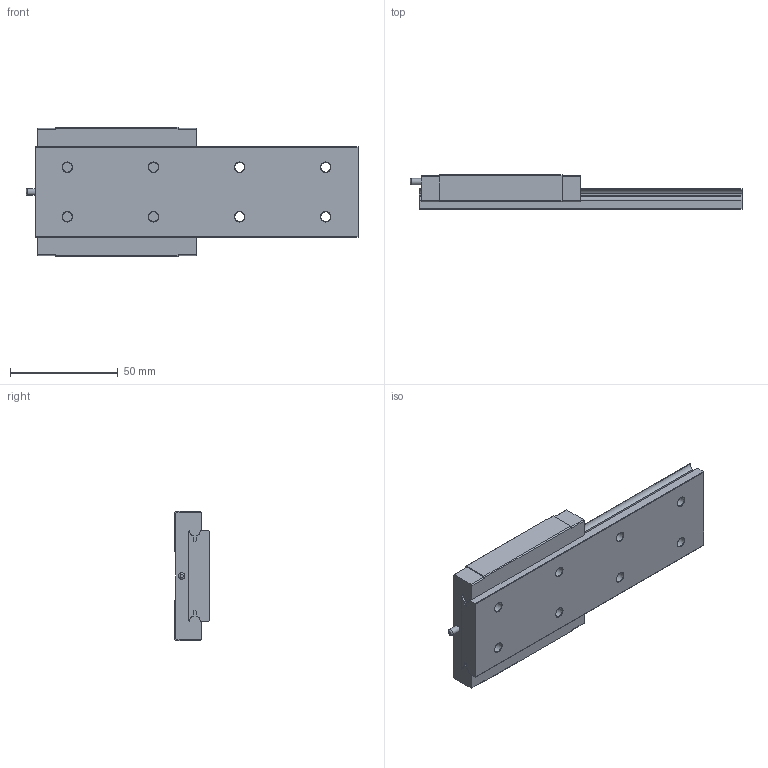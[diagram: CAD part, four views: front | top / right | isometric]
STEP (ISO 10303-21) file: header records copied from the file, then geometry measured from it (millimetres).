
FILE_DESCRIPTION( ( 'STEP AP214' ), '1' );
FILE_NAME( 'C:/Users/Futia/Documents/MLW15H.stp', '2021-11-04T07:06:42', ( 'License CC BY-ND 4.0' ), ( 'CADENAS' ), ' ', 'PARTsolutions', ' ' );
FILE_SCHEMA( ( 'AUTOMOTIVE_DESIGN { 1 0 10303 214 1 1 1 1 }' ) );
Length unit declared in the file: millimetre
Products named in the file (3): SWHC-H16-1-L150-E15; _SWHC-H16-1-L150-E15_SWHC_GUIDERAIL; _SWHC-H16-1-L150-E15_SWHC_BLOCK
Assembly tree (2 placements, depth 2):
  SWHC-H16-1-L150-E15
    _SWHC-H16-1-L150-E15_SWHC_GUIDERAIL
    _SWHC-H16-1-L150-E15_SWHC_BLOCK
Bounding box: 154.2 x 16 x 60 mm (x, y, z)
Volume: 90981.6 mm3; surface area: 33294.3 mm2
Topology: 2 solids, 2 shells, 135 faces, 333 edges, 215 vertices
Faces by surface type: plane 73, cylinder 41, cone 20, torus 1
Full cylindrical faces by diameter (mm): 3 x1, 3.242 x4, 4.51 x8, 8.01 x8
Entity records: 4938 total; most frequent: DIRECTION 670, CARTESIAN_POINT 644, ORIENTED_EDGE 582, EDGE_CURVE 291, AXIS2_PLACEMENT_3D 241, VERTEX_POINT 215, EDGE_LOOP 206, LINE 188
